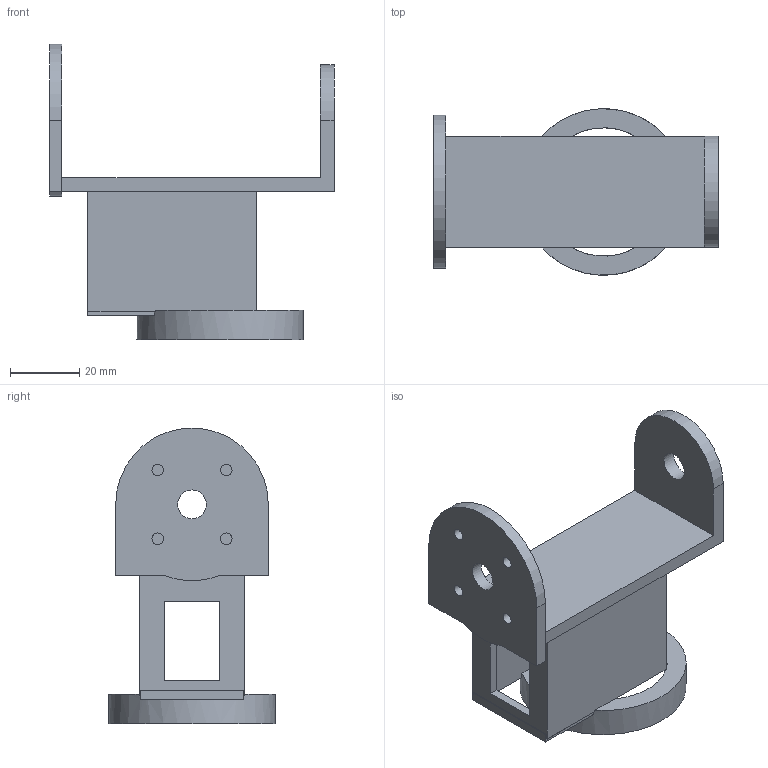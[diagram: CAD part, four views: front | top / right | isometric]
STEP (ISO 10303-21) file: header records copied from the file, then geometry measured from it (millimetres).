
FILE_DESCRIPTION(('Open CASCADE Model'),'2;1');
FILE_NAME('Open CASCADE Shape Model','2026-10-02T23:27:37',('Author'),( 'Open CASCADE'),'Open CASCADE STEP processor 7.9','Open CASCADE 7.9' ,'Unknown');
FILE_SCHEMA(('AUTOMOTIVE_DESIGN { 1 0 10303 214 1 1 1 1 }'));
Length unit declared in the file: millimetre
Products named in the file (1): Open CASCADE STEP translator 7.9 4
Bounding box: 82 x 48 x 85.3 mm (x, y, z)
Volume: 34591.7 mm3; surface area: 24564.3 mm2
Topology: 1 solids, 1 shells, 65 faces, 186 edges, 124 vertices
Faces by surface type: plane 47, cylinder 18
Full cylindrical faces by diameter (mm): 2.2 x2, 3.3 x4, 8.3 x2, 13.6 x1, 37 x1, 42.1 x1, 48 x1
Entity records: 4618 total; most frequent: CARTESIAN_POINT 980, DIRECTION 644, LINE 402, VECTOR 402, ORIENTED_EDGE 372, PCURVE 372, DEFINITIONAL_REPRESENTATION 372, EDGE_CURVE 186
